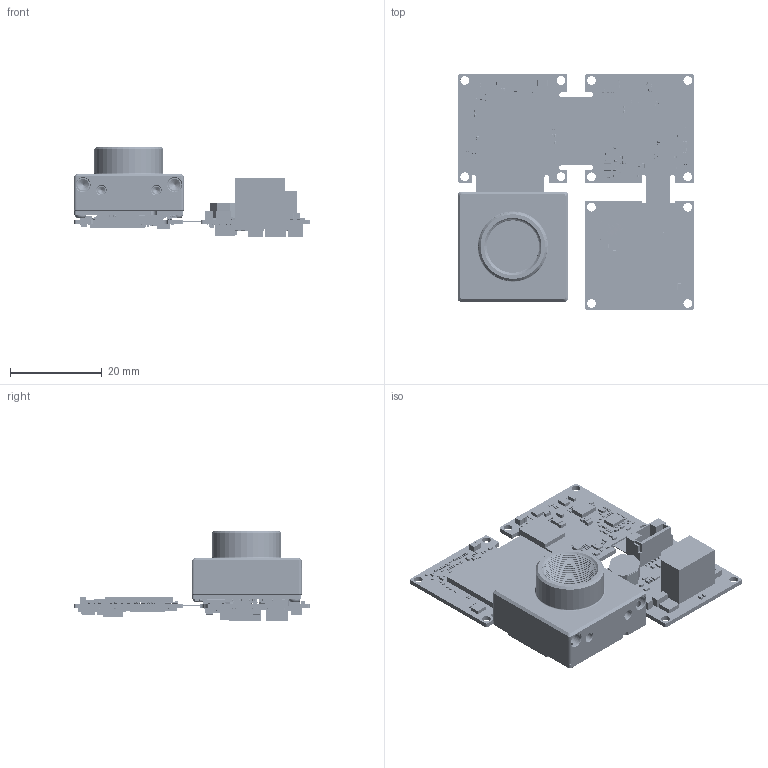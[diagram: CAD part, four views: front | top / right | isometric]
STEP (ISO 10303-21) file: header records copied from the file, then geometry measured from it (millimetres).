
FILE_DESCRIPTION (( 'STEP AP203' ), '1' );
FILE_NAME ('318-416-A_PHX24 S-MOUNT-IX_OPEN.STEP', '2018-10-16T22:48:08', ( '' ), ( '' ), 'SwSTEP 2.0', 'SolidWorks 2017', '' );
FILE_SCHEMA (( 'CONFIG_CONTROL_DESIGN' ));
Products named in the file (1): 318-416-A_PHX24 S-MOUNT-IX_OPEN
Bounding box: 51.55 x 51.45 x 19.8 mm (x, y, z)
Surface area: 14563.9 mm2 (no closed solid volume)
Topology: 0 solids, 671 shells, 21793 faces, 50937 edges, 26862 vertices
Faces by surface type: plane 9385, cylinder 8031, bspline 4299, cone 75, torus 3
Full cylindrical faces by diameter (mm): 0.099 x1, 0.177 x1, 0.206 x2, 1 x4, 1.05 x1, 1.2 x1, 1.35 x4, 1.6 x4, 1.7 x6, 1.9 x16, 2 x4, 2.5 x4, 3 x4, 15 x1
Entity records: 623969 total; most frequent: CARTESIAN_POINT 165333, DIRECTION 96913, ORIENTED_EDGE 93074, EDGE_CURVE 46539, AXIS2_PLACEMENT_3D 33431, VECTOR 30051, LINE 30051, VERTEX_POINT 26823
